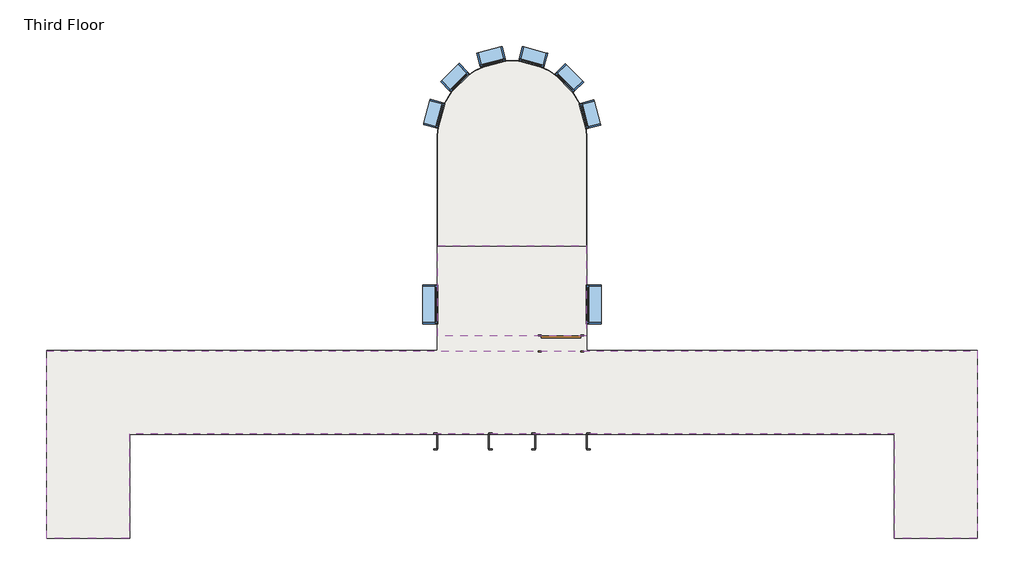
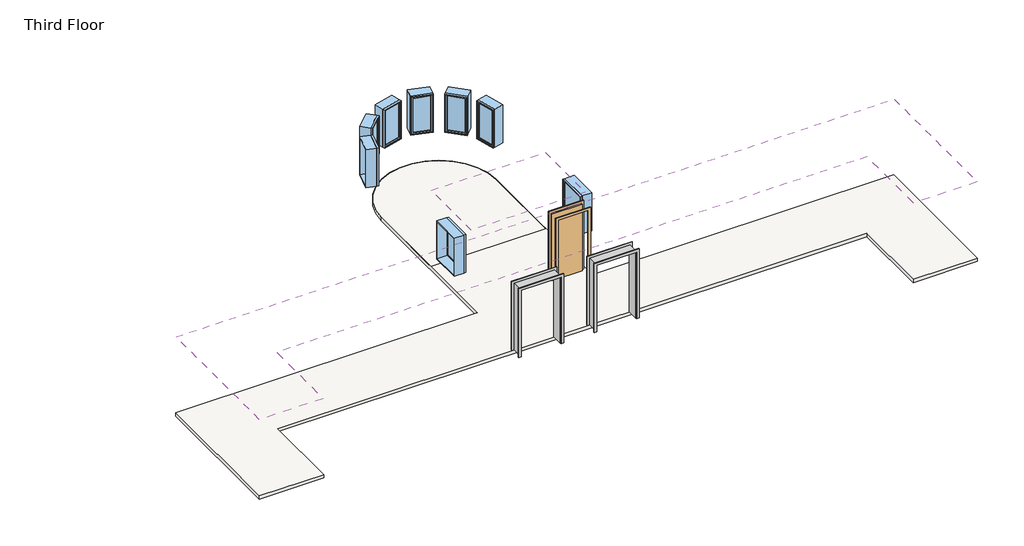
# One storey: 8 windows, 2 coverings, 2 proxies, 2 slabs, 1 door.
"""IFC4 building model written with IfcOpenShell, lengths in millimetres."""

import ifcopenshell
import ifcopenshell.guid

model = None  # the IFC model being written
_history = None  # IfcOwnerHistory: only IFC2X3 demands one
_inside = {}  # id of a spatial element -> (the spatial element, [elements in it])
_under = {}  # id of a project, library or spatial element -> (it, [spatial elements below it])
_declared = {}  # id of a project -> (the project, [libraries it declares])
_typed = {}  # id of a type object -> (the type object, [elements of that type])
_made_of = {}  # id of a material, layer set ... -> (it, [elements and type objects made of it])


def new_model(schema):
    """Start an empty IFC model of exactly this schema.

    Asked for "IFC4X3", IfcOpenShell would pick the latest addendum, in which some entities
    have other attributes; the version numbers below select the first issue.
    IFC2X3 requires an IfcOwnerHistory on every rooted entity: one is made here for all.
    """
    global model, _history
    if schema == "IFC4X3":
        model = ifcopenshell.file(schema_version=(4, 3, 0, 0))
    else:
        model = ifcopenshell.file(schema=schema)
    _inside.clear()
    _under.clear()
    _declared.clear()
    _typed.clear()
    _made_of.clear()
    _history = None
    if model.schema == "IFC2X3":
        org = make("IfcOrganization", Name="unknown")
        user = make(
            "IfcPersonAndOrganization",
            ThePerson=make("IfcPerson", FamilyName="unknown"),
            TheOrganization=org,
        )
        app = make(
            "IfcApplication",
            ApplicationDeveloper=org,
            Version="unknown",
            ApplicationFullName="unknown",
            ApplicationIdentifier="unknown",
        )
        _history = make(
            "IfcOwnerHistory",
            OwningUser=user,
            OwningApplication=app,
            ChangeAction="ADDED",
            CreationDate=0,
        )
    return model


def make(cls, **values):
    """One entity of the class cls with the attributes given. An attribute that is None is left unset."""
    return model.create_entity(
        cls, **{name: value for name, value in values.items() if value is not None}
    )


def rooted(cls, **values):
    """An entity with a GlobalId (a new one), such as an element, a storey or a relation."""
    return make(cls, GlobalId=ifcopenshell.guid.new(), OwnerHistory=_history, **values)


def si_unit(unit_type, name, prefix=None):
    """IfcSIUnit, for example si_unit("LENGTHUNIT", "METRE", prefix="MILLI")."""
    return make("IfcSIUnit", UnitType=unit_type, Prefix=prefix, Name=name)


def assignment(units):
    """IfcUnitAssignment: the units of a project."""
    return None if units is None else make("IfcUnitAssignment", Units=units)


def point(xyz):
    """IfcCartesianPoint."""
    return None if xyz is None else make("IfcCartesianPoint", Coordinates=xyz)


def direction(xyz):
    """IfcDirection."""
    return None if xyz is None else make("IfcDirection", DirectionRatios=xyz)


def frame(location, z_axis=None, x_axis=None):
    """IfcAxis2Placement3D, a coordinate frame: its origin and axes. An axis left out is left unset."""
    return make(
        "IfcAxis2Placement3D",
        Location=point(location),
        Axis=direction(z_axis),
        RefDirection=direction(x_axis),
    )


def frame_2d(location, x_axis=None):
    """IfcAxis2Placement2D, a coordinate frame in the plane: its origin and x axis."""
    return make(
        "IfcAxis2Placement2D", Location=point(location), RefDirection=direction(x_axis)
    )


def origin():
    """The frame at (0, 0, 0) with its axes left unset."""
    return frame((0.0, 0.0, 0.0))


def origin_with_axes():
    """The frame at (0, 0, 0) with the z axis (0, 0, 1) and the x axis (1, 0, 0) written out."""
    return frame((0.0, 0.0, 0.0), z_axis=(0.0, 0.0, 1.0), x_axis=(1.0, 0.0, 0.0))


def place(relative_to, where):
    """IfcLocalPlacement: puts the frame where relative to a parent placement (None: the world)."""
    return make(
        "IfcLocalPlacement", PlacementRelTo=relative_to, RelativePlacement=where
    )


def context(
    kind, dimensions, precision=None, world=None, true_north=None, identifier=None
):
    """IfcGeometricRepresentationContext, for example the 3D "Model" context."""
    return make(
        "IfcGeometricRepresentationContext",
        ContextIdentifier=identifier,
        ContextType=kind,
        CoordinateSpaceDimension=dimensions,
        Precision=precision,
        WorldCoordinateSystem=world,
        TrueNorth=true_north,
    )


def project(units=None, contexts=None):
    """IfcProject with its units and contexts."""
    return rooted(
        "IfcProject",
        Name="project",
        RepresentationContexts=contexts,
        UnitsInContext=assignment(units),
    )


def spatial(cls, under=None, at=None, **own):
    """A site, building, storey or space (cls), placed at a placement, below another one or the project."""
    s = rooted(cls, ObjectPlacement=at, **own)
    if under is not None:
        _under.setdefault(under.id(), (under, []))[1].append(s)
    return s


def polyline(points):
    """IfcPolyline through the points."""
    return make("IfcPolyline", Points=[point(p) for p in points])


def circle_curve(where, radius):
    """IfcCircle in the frame where."""
    return make("IfcCircle", Position=where, Radius=radius)


def trimmed(basis, trim1, trim2, sense, master):
    """IfcTrimmedCurve: the piece of a basis curve between two trims."""
    return make(
        "IfcTrimmedCurve",
        BasisCurve=basis,
        Trim1=trim1,
        Trim2=trim2,
        SenseAgreement=sense,
        MasterRepresentation=master,
    )


def segment(curve, same_sense, transition):
    """IfcCompositeCurveSegment."""
    return make(
        "IfcCompositeCurveSegment",
        Transition=transition,
        SameSense=same_sense,
        ParentCurve=curve,
    )


def composite_curve(segments, self_intersect=None):
    """IfcCompositeCurve: segments joined end to end."""
    return make("IfcCompositeCurve", Segments=segments, SelfIntersect=self_intersect)


def outline(outer, holes=None, kind="AREA"):
    """IfcArbitraryClosedProfileDef: a profile drawn as a closed curve; with holes, ...WithVoids."""
    if holes is None:
        return make("IfcArbitraryClosedProfileDef", ProfileType=kind, OuterCurve=outer)
    return make(
        "IfcArbitraryProfileDefWithVoids",
        ProfileType=kind,
        OuterCurve=outer,
        InnerCurves=holes,
    )


def extrude(swept, where, along, depth):
    """IfcExtrudedAreaSolid: the profile swept, set in the frame where, extruded along a direction by depth."""
    return make(
        "IfcExtrudedAreaSolid",
        SweptArea=swept,
        Position=where,
        ExtrudedDirection=direction(along),
        Depth=depth,
    )


def faces_of(points, faces, orient=None, outer=None):
    """IfcFace entities. A face is a list of loops; a loop is a list of indices into points, from 0.

    orient and outer hold one flag for each loop. By default every Orientation is true, the
    first loop of a face is its IfcFaceOuterBound and the others are IfcFaceBound.
    """
    made = []
    for i, loops in enumerate(faces):
        bounds = []
        for j, loop in enumerate(loops):
            is_outer = j == 0 if outer is None else outer[i][j]
            bounds.append(
                make(
                    "IfcFaceOuterBound" if is_outer else "IfcFaceBound",
                    Bound=make("IfcPolyLoop", Polygon=[points[k] for k in loop]),
                    Orientation=True if orient is None else orient[i][j],
                )
            )
        made.append(make("IfcFace", Bounds=bounds))
    return made


def faceted_brep(points, faces, orient=None, outer=None, voids=None):
    """IfcFacetedBrep: a solid bounded by flat faces; with voids (closed shells), ...WithVoids."""
    shared = [point(p) for p in points]
    hull = make("IfcClosedShell", CfsFaces=faces_of(shared, faces, orient, outer))
    if voids is None:
        return make("IfcFacetedBrep", Outer=hull)
    return make(
        "IfcFacetedBrepWithVoids",
        Outer=hull,
        Voids=[
            make(cls, CfsFaces=faces_of(shared, fs, o, b)) for cls, fs, o, b in voids
        ],
    )


def shape(context_of_items, identifier, shape_type, items):
    """IfcShapeRepresentation: the items that make up one representation, for example the "Body"."""
    return make(
        "IfcShapeRepresentation",
        ContextOfItems=context_of_items,
        RepresentationIdentifier=identifier,
        RepresentationType=shape_type,
        Items=items,
    )


def source(mapping_origin, context_of_items, identifier, shape_type, items):
    """IfcRepresentationMap: a shape defined once, which mapped items show again and again."""
    return make(
        "IfcRepresentationMap",
        MappingOrigin=mapping_origin,
        MappedRepresentation=shape(context_of_items, identifier, shape_type, items),
    )


def transform(
    local_origin,
    x_axis=None,
    y_axis=None,
    z_axis=None,
    scale=None,
    scale2=None,
    scale3=None,
    uniform=True,
):
    """IfcCartesianTransformationOperator3D, or its non-uniform kind. x_axis, y_axis, z_axis: its Axis1, 2, 3."""
    if uniform:
        return make(
            "IfcCartesianTransformationOperator3D",
            Axis1=direction(x_axis),
            Axis2=direction(y_axis),
            LocalOrigin=point(local_origin),
            Scale=scale,
            Axis3=direction(z_axis),
        )
    return make(
        "IfcCartesianTransformationOperator3DnonUniform",
        Axis1=direction(x_axis),
        Axis2=direction(y_axis),
        LocalOrigin=point(local_origin),
        Scale=scale,
        Axis3=direction(z_axis),
        Scale2=scale2,
        Scale3=scale3,
    )


def mapped(mapping_source, mapping_target):
    """IfcMappedItem: shows the shape of a source again, moved by a transform."""
    return make(
        "IfcMappedItem", MappingSource=mapping_source, MappingTarget=mapping_target
    )


def made_of(thing, what):
    """Note that an element or type object is made of a material, layer set ...; save() writes the relation."""
    if what is not None:
        _made_of.setdefault(what.id(), (what, []))[1].append(thing)
    return thing


def element(
    cls,
    number,
    at=None,
    inside=None,
    cuts=None,
    type_object=None,
    material=None,
    context=None,
    identifier="Body",
    shape_type=None,
    held_by="IfcProductDefinitionShape",
    body=None,
    shapes=None,
    **own,
):
    """One element of the class cls, such as IfcWall. Its Tag is "e" and its number.

    at: its placement. inside: the storey or other place that contains it. cuts: it is an
    opening in that element (IfcRelVoidsElement). A single representation is given by context,
    identifier, shape_type and body (its items); several are given by shapes. held_by: the class
    of the entity that holds the representations. save() writes the other relations.
    """
    e = rooted(cls, Tag="e%d" % number, ObjectPlacement=at, **own)
    if body is not None:
        shapes = [shape(context, identifier, shape_type, body)]
    if shapes is not None:
        e.Representation = make(held_by, Representations=shapes)
    if inside is not None:
        _inside.setdefault(inside.id(), (inside, []))[1].append(e)
    if cuts is not None:
        rooted(
            "IfcRelVoidsElement", RelatingBuildingElement=cuts, RelatedOpeningElement=e
        )
    if type_object is not None:
        _typed.setdefault(type_object.id(), (type_object, []))[1].append(e)
    return made_of(e, material)


def aggregate(whole, parts):
    """IfcRelAggregates: a whole, such as a stair, and the parts it consists of."""
    return rooted("IfcRelAggregates", RelatingObject=whole, RelatedObjects=parts)


def save(model, path):
    """Write the relations noted so far, then the file.

    IfcRelAggregates (storeys below a building ...), IfcRelContainedInSpatialStructure (elements
    in a storey), IfcRelDefinesByType, IfcRelAssociatesMaterial and IfcRelDeclares: one each for
    every whole, place, type object, material and project.
    """
    for whole, parts in _under.values():
        aggregate(whole, parts)
    for where, things in _inside.values():
        rooted(
            "IfcRelContainedInSpatialStructure",
            RelatedElements=things,
            RelatingStructure=where,
        )
    for kind, things in _typed.values():
        rooted("IfcRelDefinesByType", RelatedObjects=things, RelatingType=kind)
    for what, things in _made_of.values():
        rooted("IfcRelAssociatesMaterial", RelatedObjects=things, RelatingMaterial=what)
    for by, libraries in _declared.values():
        rooted("IfcRelDeclares", RelatingContext=by, RelatedDefinitions=libraries)
    model.write(path)


def proxy_c3589814(model_context):
    return source(origin(), model_context, "Body", "SolidModel", [
        extrude(outline(polyline([(0.0, -611.4386567), (2127.25, -611.4386567), (2127.25, 595.0613433), (0.0, 595.0613433), (0.0, 671.2613433), (2203.45, 671.2613433), (2203.45, -687.6386567), (0.0, -687.6386567), (0.0, -611.4386567)])), frame((0.0, -195.2625, 0.0), z_axis=(0.0, 1.0, 0.0), x_axis=(0.0, 0.0, 1.0)), (0.0, 0.0, 1.0), 19.05),
        extrude(outline(polyline([(0.0, 671.2613433), (2209.8, 671.2613433), (2209.8, -687.6386567), (0.0, -687.6386567), (0.0, -611.4386567), (2127.25, -611.4386567), (2127.25, 595.0613433), (0.0, 595.0613433), (0.0, 671.2613433)])), frame((0.0, 176.2125, 0.0), z_axis=(0.0, 1.0, 0.0), x_axis=(0.0, 0.0, 1.0)), (0.0, 0.0, 1.0), 19.05),
        faceted_brep([(582.3613433, 176.2125, 0.0), (601.4113433, 176.2125, 0.0), (601.4113433, -176.2125, 0.0), (582.3613433, -176.2125, 0.0), (582.3613433, 176.2125, 2114.55), (601.4113433, 176.2125, 2133.6), (601.4113433, -176.2125, 2133.6), (582.3613433, -176.2125, 2114.55), (-598.7386567, 176.2125, 2114.55), (-617.7886567, 176.2125, 2133.6), (-617.7886567, -176.2125, 2133.6), (-598.7386567, -176.2125, 2114.55), (-598.7386567, 176.2125, 0.0), (-598.7386567, -176.2125, 0.0), (-617.7886567, -176.2125, 0.0), (-617.7886567, 176.2125, 0.0)], [[[0, 1, 2, 3]], [[1, 0, 4, 5]], [[2, 1, 5, 6]], [[3, 2, 6, 7]], [[0, 3, 7, 4]], [[5, 4, 8, 9]], [[6, 5, 9, 10]], [[7, 6, 10, 11]], [[4, 7, 11, 8]], [[12, 13, 14, 15]], [[9, 8, 12, 15]], [[10, 9, 15, 14]], [[11, 10, 14, 13]], [[8, 11, 13, 12]]]),
    ])


def door_632be17d(model_context):
    return source(origin(), model_context, "Body", "SweptSolid", [
        extrude(outline(polyline([(2209.8, -533.4), (0.0, -533.4), (0.0, -457.2), (2133.6, -457.2), (2133.6, 457.2), (0.0, 457.2), (0.0, 533.4), (2209.8, 533.4), (2209.8, -533.4)])), frame((0.0, 176.2125, 0.0), z_axis=(0.0, 1.0, 0.0), x_axis=(0.0, 0.0, 1.0)), (0.0, 0.0, 1.0), 25.4),
        extrude(outline(polyline([(2209.8, 533.4), (2209.8, -533.4), (0.0, -533.4), (0.0, -457.2), (2133.6, -457.2), (2133.6, 457.2), (0.0, 457.2), (0.0, 533.4), (2209.8, 533.4)])), frame((0.0, -201.6125, 0.0), z_axis=(0.0, 1.0, 0.0), x_axis=(0.0, 0.0, 1.0)), (0.0, 0.0, 1.0), 25.4),
        extrude(outline(polyline([(457.2, 125.4125), (-457.2, 125.4125), (-457.2, 176.2125), (457.2, 176.2125), (457.2, 125.4125)])), origin_with_axes(), (0.0, 0.0, 1.0), 2133.6),
    ])


def window_60baf983(model_context):
    return source(origin(), model_context, "Body", "SweptSolid", [
        extrude(outline(polyline([(203.2, 128.5875), (-279.4, 128.5875), (-279.4, 141.2875), (203.2, 141.2875), (203.2, 128.5875)])), frame((0.0, 0.0, 977.9), z_axis=(0.0, 0.0, 1.0), x_axis=(1.0, 0.0, 0.0)), (0.0, 0.0, 1.0), 1092.2),
        extrude(outline(polyline([(2114.55, -323.85), (933.45, -323.85), (933.45, 247.65), (2114.55, 247.65), (2114.55, -323.85)]), holes=[polyline([(2070.1, -279.4), (2070.1, 203.2), (977.9, 203.2), (977.9, -279.4), (2070.1, -279.4)])]), frame((0.0, 112.7125, 0.0), z_axis=(0.0, 1.0, 0.0), x_axis=(0.0, 0.0, 1.0)), (0.0, 0.0, 1.0), 44.45),
        extrude(outline(polyline([(2133.6, -342.9), (914.4, -342.9), (914.4, 266.7), (2133.6, 266.7), (2133.6, -342.9)]), holes=[polyline([(2101.85, -311.15), (2101.85, 234.95), (946.15, 234.95), (946.15, -311.15), (2101.85, -311.15)])]), frame((0.0, -176.2125, 0.0), z_axis=(0.0, 1.0, 0.0), x_axis=(0.0, 0.0, 1.0)), (0.0, 0.0, 1.0), 288.925),
        extrude(outline(polyline([(2133.6, 266.7), (2133.6, -342.9), (914.4, -342.9), (914.4, 266.7), (2133.6, 266.7)]), holes=[polyline([(2114.55, 247.65), (933.45, 247.65), (933.45, -323.85), (2114.55, -323.85), (2114.55, 247.65)])]), frame((0.0, 112.7125, 0.0), z_axis=(0.0, 1.0, 0.0), x_axis=(0.0, 0.0, 1.0)), (0.0, 0.0, 1.0), 63.5),
    ])


def window_15c49d37(model_context):
    return source(origin(), model_context, "Body", "SweptSolid", [
        extrude(outline(polyline([(355.6, 128.5875), (-431.8, 128.5875), (-431.8, 141.2875), (355.6, 141.2875), (355.6, 128.5875)])), frame((0.0, 0.0, 977.9), z_axis=(0.0, 0.0, 1.0), x_axis=(1.0, 0.0, 0.0)), (0.0, 0.0, 1.0), 1092.2),
        extrude(outline(polyline([(2114.55, -476.25), (933.45, -476.25), (933.45, 400.05), (2114.55, 400.05), (2114.55, -476.25)]), holes=[polyline([(2070.1, -431.8), (2070.1, 355.6), (977.9, 355.6), (977.9, -431.8), (2070.1, -431.8)])]), frame((0.0, 112.7125, 0.0), z_axis=(0.0, 1.0, 0.0), x_axis=(0.0, 0.0, 1.0)), (0.0, 0.0, 1.0), 44.45),
        extrude(outline(polyline([(2133.6, -495.3), (914.4, -495.3), (914.4, 419.1), (2133.6, 419.1), (2133.6, -495.3)]), holes=[polyline([(2101.85, -463.55), (2101.85, 387.35), (946.15, 387.35), (946.15, -463.55), (2101.85, -463.55)])]), frame((0.0, -176.2125, 0.0), z_axis=(0.0, 1.0, 0.0), x_axis=(0.0, 0.0, 1.0)), (0.0, 0.0, 1.0), 288.925),
        extrude(outline(polyline([(2133.6, 419.1), (2133.6, -495.3), (914.4, -495.3), (914.4, 419.1), (2133.6, 419.1)]), holes=[polyline([(2114.55, 400.05), (933.45, 400.05), (933.45, -476.25), (2114.55, -476.25), (2114.55, 400.05)])]), frame((0.0, 112.7125, 0.0), z_axis=(0.0, 1.0, 0.0), x_axis=(0.0, 0.0, 1.0)), (0.0, 0.0, 1.0), 63.5),
    ])


model = new_model("IFC4")

# Units and contexts
model_context = context("Model", 3, world=origin())
ifc_project = project(units=[si_unit("LENGTHUNIT", "METRE", prefix="MILLI")], contexts=[model_context])

# Site, building, storey
site = spatial("IfcSite", under=ifc_project)
building = spatial("IfcBuilding", under=site)
storey = spatial("IfcBuildingStorey", under=building, Name="Third Floor", Elevation=6096.0)

# Proxies
placement = place(None, origin())
proxy_shape = proxy_c3589814(model_context)
element("IfcBuildingElementProxy", 1, Name="Opening-Cased : 48\" x 84\"", ObjectType="Opening-Cased : 48\" x 84\"", at=placement, inside=storey, context=model_context, shape_type="MappedRepresentation", body=[
    mapped(proxy_shape, transform((-7396.8036255, 2429.9758812, 6096.0), x_axis=(-1.0, 0.0, 0.0), y_axis=(0.0, -1.0, 0.0), z_axis=(0.0, 0.0, 1.0))),
])
element("IfcBuildingElementProxy", 2, Name="Opening-Cased : 48\" x 84\"", ObjectType="Opening-Cased : 48\" x 84\"", at=placement, inside=storey, context=model_context, shape_type="MappedRepresentation", body=[
    mapped(proxy_shape, transform((-5110.8036255, 2429.9758812, 6096.0), x_axis=(-1.0, 0.0, 0.0), y_axis=(0.0, -1.0, 0.0), z_axis=(0.0, 0.0, 1.0))),
])

# Coverings
element("IfcCovering", 3, ObjectType="GWB on Mtl. Stud", at=placement, inside=storey, context=model_context, shape_type="SweptSolid", body=[
    extrude(outline(polyline([(-4516.8274687, 4892.1883812), (-7974.4024687, 4892.1883812), (-7974.4024687, 7001.9758812), (-4516.8274687, 7001.9758812), (-4516.8274687, 4892.1883812)])), frame((0.0, 0.0, 8534.4), z_axis=(0.0, 0.0, 1.0), x_axis=(1.0, 0.0, 0.0)), (0.0, 0.0, 1.0), 107.95),
])
element("IfcCovering", 4, ObjectType="GWB on Mtl. Stud", at=placement, inside=storey, context=model_context, shape_type="SweptSolid", body=[
    extrude(outline(polyline([(2693.5975313, 167.7883812), (2693.5975313, 2606.1883812), (-15184.8274687, 2606.1883812), (-15184.8274687, 167.7883812), (-17118.4024687, 167.7883812), (-17118.4024687, 4539.7633812), (4627.1725313, 4539.7633812), (4627.1725313, 167.7883812), (2693.5975313, 167.7883812)])), frame((0.0, 0.0, 8534.4), z_axis=(0.0, 0.0, 1.0), x_axis=(1.0, 0.0, 0.0)), (0.0, 0.0, 1.0), 107.95),
])

# Door
door_shape = door_632be17d(model_context)
element("IfcDoor", 5, ObjectType="Single-Flush : 36\" x 84\"", at=placement, inside=storey, context=model_context, shape_type="MappedRepresentation", body=[
    mapped(door_shape, transform((-5102.6149687, 4715.9758812, 6096.0), x_axis=(1.0, 0.0, 0.0), y_axis=(0.0, 1.0, 0.0), z_axis=(0.0, 0.0, 1.0))),
])

# Slabs
element("IfcSlab", 6, ObjectType="LW Concrete on Metal Deck", at=placement, inside=storey, context=model_context, shape_type="SweptSolid", body=[
    extrude(outline(composite_curve([segment(polyline([(-4504.1274687, 9592.7758812), (-4504.1274687, 4552.4633812), (4627.1725313, 4552.4633812), (4627.1725313, 167.7883812), (2680.8975313, 167.7883812), (2680.8975313, 2593.4883812), (-15172.1274687, 2593.4883812), (-15172.1274687, 167.7883812), (-17118.4024687, 167.7883812), (-17118.4024687, 4552.4633812), (-7987.1024687, 4552.4633812), (-7987.1024687, 9592.7758812)]), True, "CONTINUOUS"), segment(trimmed(circle_curve(frame_2d((-6245.6149687, 9592.7758812)), 1741.4875), [point((-7987.1024687, 9592.7758812))], [point((-4504.1274687, 9592.7758812))], False, "CARTESIAN"), True, "CONTINUOUS")], self_intersect=False), holes=[composite_curve([segment(polyline([(-7974.4024687, 7001.9758812), (-4516.8274687, 7001.9758812), (-4516.8274687, 9592.7758812)]), True, "CONTINUOUS"), segment(trimmed(circle_curve(frame_2d((-6245.6149687, 9592.7758812)), 1728.7875), [point((-4516.8274687, 9592.7758812))], [point((-7974.4024687, 9592.7758812))], True, "CARTESIAN"), True, "CONTINUOUS"), segment(polyline([(-7974.4024687, 9592.7758812), (-7974.4024687, 7001.9758812)]), True, "CONTINUOUS")], self_intersect=False)]), frame((0.0, 0.0, 5991.225), z_axis=(0.0, 0.0, 1.0), x_axis=(1.0, 0.0, 0.0)), (0.0, 0.0, 1.0), 104.775),
])
element("IfcSlab", 7, ObjectType="LW Concrete on Metal Deck", at=placement, inside=storey, context=model_context, shape_type="SweptSolid", body=[
    extrude(outline(composite_curve([segment(polyline([(-4504.1274687, 9592.7758812), (-4504.1274687, 4552.4633812), (4627.1725313, 4552.4633812), (4627.1725313, 167.7883812), (2680.8975313, 167.7883812), (2680.8975313, 2593.4883812), (-15172.1274687, 2593.4883812), (-15172.1274687, 167.7883812), (-17118.4024687, 167.7883812), (-17118.4024687, 4552.4633812), (-7987.1024687, 4552.4633812), (-7987.1024687, 9592.7758812)]), True, "CONTINUOUS"), segment(trimmed(circle_curve(frame_2d((-6245.6149687, 9592.7758812)), 1741.4875), [point((-7987.1024687, 9592.7758812))], [point((-4504.1274687, 9592.7758812))], False, "CARTESIAN"), True, "CONTINUOUS")], self_intersect=False)), frame((0.0, 0.0, 5991.225), z_axis=(0.0, 0.0, 1.0), x_axis=(1.0, 0.0, 0.0)), (0.0, 0.0, 1.0), 104.775),
])

# Windows
window_shape = window_60baf983(model_context)
element("IfcWindow", 8, ObjectType="Fixed : 24\" x 48\"", at=placement, inside=storey, context=model_context, shape_type="MappedRepresentation", body=[
    mapped(window_shape, transform((-8072.5076754, 10048.7859441, 6096.0), x_axis=(-0.2617614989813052, -0.9651325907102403, 0.0), y_axis=(0.9651325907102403, -0.2617614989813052, 0.0), z_axis=(0.0, 0.0, 1.0))),
])
element("IfcWindow", 9, ObjectType="Fixed : 24\" x 48\"", at=placement, inside=storey, context=model_context, shape_type="MappedRepresentation", body=[
    mapped(window_shape, transform((-7599.7454312, 10901.1385333, 6096.0), x_axis=(-0.7092584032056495, -0.7049485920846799, 0.0), y_axis=(0.7049485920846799, -0.7092584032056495, 0.0), z_axis=(0.0, 0.0, 1.0))),
])
element("IfcWindow", 10, ObjectType="Fixed : 24\" x 48\"", at=placement, inside=storey, context=model_context, shape_type="MappedRepresentation", body=[
    mapped(window_shape, transform((-6764.1450232, 11402.9164066, 6096.0), x_axis=(-0.96671009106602, -0.25587418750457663, 0.0), y_axis=(0.25587418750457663, -0.96671009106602, 0.0), z_axis=(0.0, 0.0, 1.0))),
])
element("IfcWindow", 11, ObjectType="Fixed : 24\" x 48\"", at=placement, inside=storey, context=model_context, shape_type="MappedRepresentation", body=[
    mapped(window_shape, transform((-5789.6049059, 11419.6685878, 6096.0), x_axis=(-0.9651325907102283, 0.2617614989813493, 0.0), y_axis=(-0.2617614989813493, -0.9651325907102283, 0.0), z_axis=(0.0, 0.0, 1.0))),
])
element("IfcWindow", 12, ObjectType="Fixed : 24\" x 48\"", at=placement, inside=storey, context=model_context, shape_type="MappedRepresentation", body=[
    mapped(window_shape, transform((-4937.2523166, 10946.9063437, 6096.0), x_axis=(-0.7049485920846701, 0.7092584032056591, 0.0), y_axis=(-0.7092584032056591, -0.7049485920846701, 0.0), z_axis=(0.0, 0.0, 1.0))),
])
element("IfcWindow", 13, ObjectType="Fixed : 24\" x 48\"", at=placement, inside=storey, context=model_context, shape_type="MappedRepresentation", body=[
    mapped(window_shape, transform((-4435.4744434, 10111.3059357, 6096.0), x_axis=(-0.25587418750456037, 0.9667100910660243, 0.0), y_axis=(-0.9667100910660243, -0.25587418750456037, 0.0), z_axis=(0.0, 0.0, 1.0))),
])
window_2_shape = window_15c49d37(model_context)
element("IfcWindow", 14, ObjectType="Fixed : 36\" x 48\"", at=placement, inside=storey, context=model_context, shape_type="MappedRepresentation", body=[
    mapped(window_2_shape, transform((-8150.6149687, 5592.2758812, 6096.0), x_axis=(0.0, -1.0, 0.0), y_axis=(1.0, 0.0, 0.0), z_axis=(0.0, 0.0, 1.0))),
])
element("IfcWindow", 15, ObjectType="Fixed : 36\" x 48\"", at=placement, inside=storey, context=model_context, shape_type="MappedRepresentation", body=[
    mapped(window_2_shape, transform((-4340.6149687, 5668.4758812, 6096.0), x_axis=(0.0, 1.0, 0.0), y_axis=(-1.0, 0.0, 0.0), z_axis=(0.0, 0.0, 1.0))),
])

save(model, "model.ifc")
